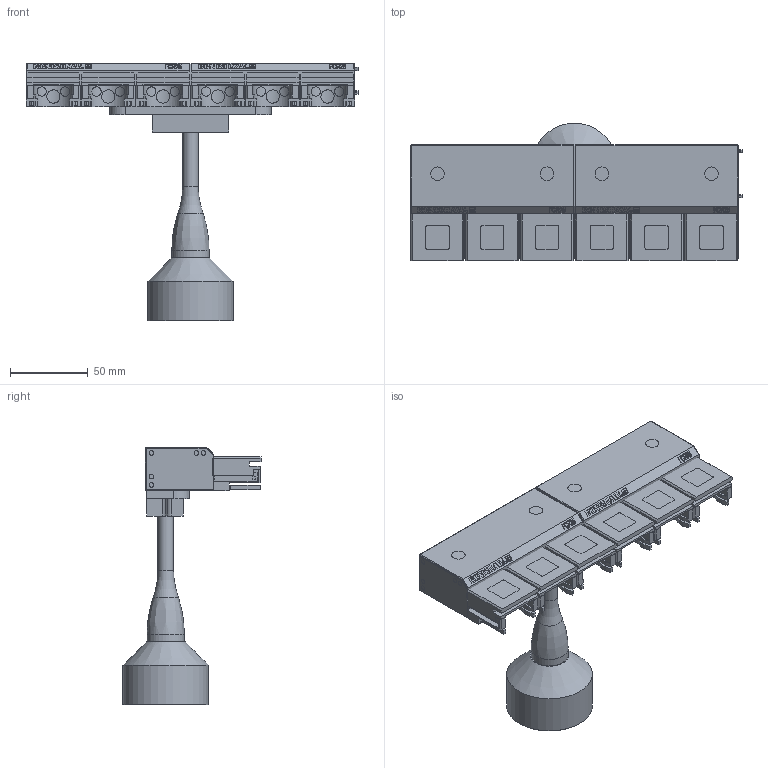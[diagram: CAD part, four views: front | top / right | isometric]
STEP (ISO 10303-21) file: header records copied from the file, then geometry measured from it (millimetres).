
FILE_DESCRIPTION(/* description */ (''),/* implementation_level */ '2;1');
FILE_NAME(/* name */ 'LA-2237-1406#-E.stp',/* time_stamp */ '2012-09-04T14:25:53+01:00',/* author */ (''),/* organization */ (''),/* preprocessor_version */ 'ST-DEVELOPER v11',/* originating_system */ 'SIEMENS PLM Software NX 7.5',/* authorisation */ '');
FILE_SCHEMA (('AUTOMOTIVE_DESIGN { 1 0 10303 214 1 1 1 1 }'));
Length unit declared in the file: millimetre
Products named in the file (1): rt133622tjps
Bounding box: 213.5 x 88.75 x 165.84 mm (x, y, z)
Volume: 438481.3 mm3; surface area: 90128.4 mm2
Topology: 7 solids, 7 shells, 776 faces, 2380 edges, 1741 vertices
Faces by surface type: plane 690, cylinder 81, cone 2, bspline 2, torus 1
Full cylindrical faces by diameter (mm): 10 x1, 23.95 x1, 55 x1
Entity records: 31693 total; most frequent: CARTESIAN_POINT 6257, ORIENTED_EDGE 4742, DIRECTION 4066, EDGE_CURVE 2371, LINE 1986, VECTOR 1986, VERTEX_POINT 1739, AXIS2_PLACEMENT_3D 1040
